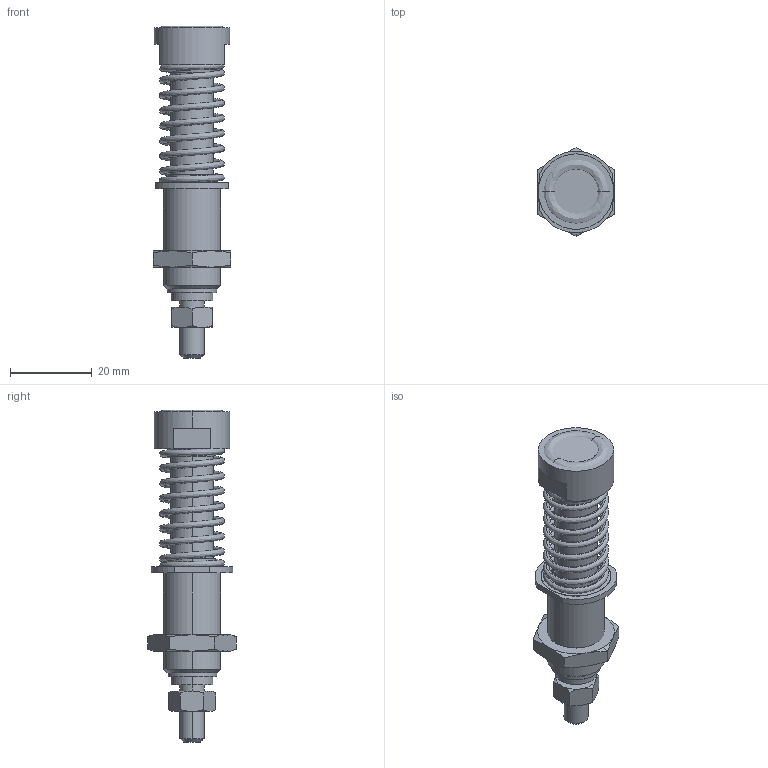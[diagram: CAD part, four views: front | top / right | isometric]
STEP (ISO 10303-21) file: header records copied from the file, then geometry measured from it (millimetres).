
FILE_DESCRIPTION (( 'STEP AP203' ), '1' );
FILE_NAME ('GTC-20048-01_STEP-AP203.STEP', '2022-06-30T00:42:29', ( '' ), ( '' ), 'SwSTEP 2.0', 'SolidWorks 2022', '' );
FILE_SCHEMA (( 'CONFIG_CONTROL_DESIGN' ));
Length unit declared in the file: millimetre
Products named in the file (1): GTC-20048-01_STEP-AP203
Bounding box: 18.9 x 21.82 x 81.47 mm (x, y, z)
Volume: 11799.6 mm3; surface area: 9848.9 mm2
Topology: 8 solids, 8 shells, 141 faces, 309 edges, 187 vertices
Faces by surface type: cylinder 43, plane 43, cone 32, bspline 13, torus 8, sphere 2
Entity records: 6886 total; most frequent: CARTESIAN_POINT 3867, ORIENTED_EDGE 614, DIRECTION 610, EDGE_CURVE 307, AXIS2_PLACEMENT_3D 263, VERTEX_POINT 187, EDGE_LOOP 156, ADVANCED_FACE 141
